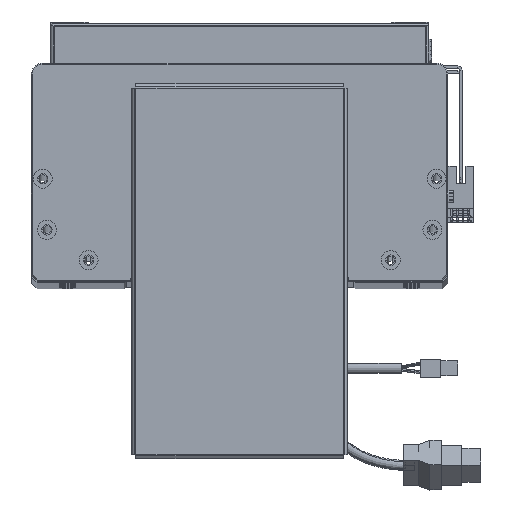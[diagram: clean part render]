
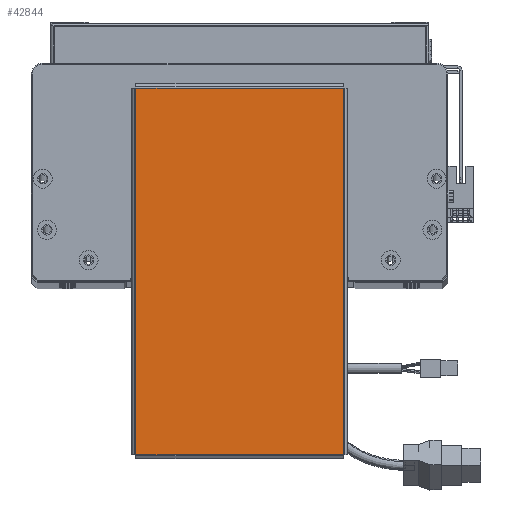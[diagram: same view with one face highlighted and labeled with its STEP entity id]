
A CAD part, top view. The second image highlights one B-rep face of the part: STEP entity #42844.
In plain terms, the highlighted planar face has unit normal (0, 0, 1).
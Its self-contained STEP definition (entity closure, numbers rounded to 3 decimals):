
#882 = LINE ( 'NONE', #25980, #15469 ) ;
#3133 = DIRECTION ( 'NONE',  ( 0., 0., 1. ) ) ;
#3620 = DIRECTION ( 'NONE',  ( 0., -1., 0. ) ) ;
#5059 = ORIENTED_EDGE ( 'NONE', *, *, #70294, .T. ) ;
#6870 = EDGE_CURVE ( 'NONE', #16969, #13528, #22966, .T. ) ;
#7250 = CARTESIAN_POINT ( 'NONE',  ( 0., 0., 0. ) ) ;
#9612 = ORIENTED_EDGE ( 'NONE', *, *, #6870, .T. ) ;
#10316 = ORIENTED_EDGE ( 'NONE', *, *, #17646, .T. ) ;
#12260 = CARTESIAN_POINT ( 'NONE',  ( 96.763, -54.763, 0. ) ) ;
#13528 = VERTEX_POINT ( 'NONE', #41214 ) ;
#14604 = CARTESIAN_POINT ( 'NONE',  ( -96.763, 54.793, 0. ) ) ;
#15469 = VECTOR ( 'NONE', #15526, 1000. ) ;
#15526 = DIRECTION ( 'NONE',  ( 1., 0., 0. ) ) ;
#16067 = CARTESIAN_POINT ( 'NONE',  ( -96.763, 54.763, 0. ) ) ;
#16969 = VERTEX_POINT ( 'NONE', #16067 ) ;
#17646 = EDGE_CURVE ( 'NONE', #64013, #49555, #41891, .T. ) ;
#21493 = VECTOR ( 'NONE', #37165, 1000. ) ;
#22966 = LINE ( 'NONE', #14604, #37472 ) ;
#25388 = CARTESIAN_POINT ( 'NONE',  ( 96.793, 54.763, 0. ) ) ;
#25980 = CARTESIAN_POINT ( 'NONE',  ( -96.793, -54.763, 0. ) ) ;
#26705 = FACE_OUTER_BOUND ( 'NONE', #41839, .T. ) ;
#28128 = PLANE ( 'NONE',  #30251 ) ;
#30251 = AXIS2_PLACEMENT_3D ( 'NONE', #7250, #3133, #52586 ) ;
#35014 = CARTESIAN_POINT ( 'NONE',  ( 96.763, -54.793, 0. ) ) ;
#37165 = DIRECTION ( 'NONE',  ( 0., 1., 0. ) ) ;
#37472 = VECTOR ( 'NONE', #3620, 1000. ) ;
#40598 = CARTESIAN_POINT ( 'NONE',  ( 96.763, 54.763, 0. ) ) ;
#41214 = CARTESIAN_POINT ( 'NONE',  ( -96.763, -54.763, 0. ) ) ;
#41839 = EDGE_LOOP ( 'NONE', ( #70142, #10316, #5059, #9612 ) ) ;
#41891 = LINE ( 'NONE', #35014, #21493 ) ;
#42527 = LINE ( 'NONE', #25388, #54530 ) ;
#42844 = ADVANCED_FACE ( 'NONE', ( #26705 ), #28128, .T. ) ;
#49555 = VERTEX_POINT ( 'NONE', #40598 ) ;
#52586 = DIRECTION ( 'NONE',  ( 1., 0., 0. ) ) ;
#54530 = VECTOR ( 'NONE', #68643, 1000. ) ;
#59724 = EDGE_CURVE ( 'NONE', #13528, #64013, #882, .T. ) ;
#64013 = VERTEX_POINT ( 'NONE', #12260 ) ;
#68643 = DIRECTION ( 'NONE',  ( -1., 0., 0. ) ) ;
#70142 = ORIENTED_EDGE ( 'NONE', *, *, #59724, .T. ) ;
#70294 = EDGE_CURVE ( 'NONE', #49555, #16969, #42527, .T. ) ;
